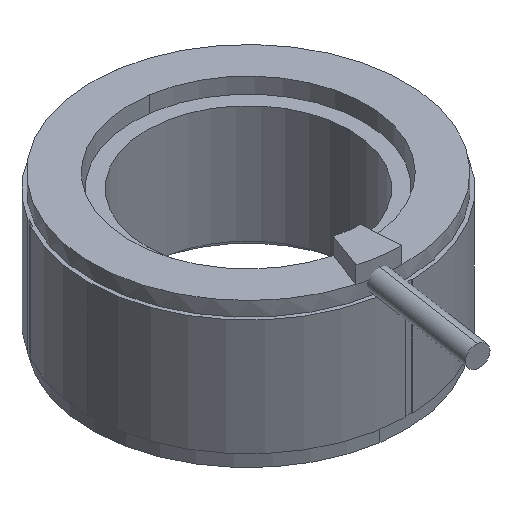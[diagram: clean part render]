
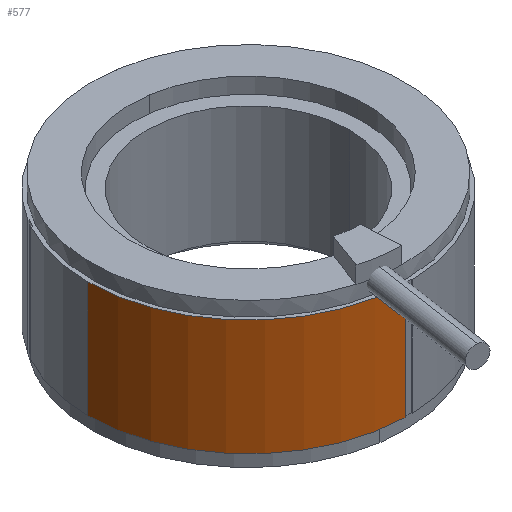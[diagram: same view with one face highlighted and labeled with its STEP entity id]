
A CAD part, isometric view. The second image highlights one B-rep face of the part: STEP entity #577.
In plain terms, the highlighted cylindrical face has radius 66.5 mm (diameter 133 mm), a partial arc.
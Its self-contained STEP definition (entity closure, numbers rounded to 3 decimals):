
#3 = DIRECTION ( 'NONE',  ( 0., 0., -1. ) ) ;
#15 = ORIENTED_EDGE ( 'NONE', *, *, #1209, .F. ) ;
#27 = DIRECTION ( 'NONE',  ( -1., 0., 0. ) ) ;
#33 = CARTESIAN_POINT ( 'NONE',  ( -36.603, 126.985, 129.713 ) ) ;
#38 = LINE ( 'NONE', #339, #453 ) ;
#151 = CARTESIAN_POINT ( 'NONE',  ( 28.372, 60.502, 177.713 ) ) ;
#156 = ORIENTED_EDGE ( 'NONE', *, *, #899, .T. ) ;
#183 = CARTESIAN_POINT ( 'NONE',  ( 29.897, 126.985, 177.713 ) ) ;
#218 = CIRCLE ( 'NONE', #894, 66.5 ) ;
#247 = CARTESIAN_POINT ( 'NONE',  ( -36.603, 126.985, 209.713 ) ) ;
#271 = VERTEX_POINT ( 'NONE', #151 ) ;
#313 = CARTESIAN_POINT ( 'NONE',  ( 29.897, 126.985, 209.713 ) ) ;
#320 = AXIS2_PLACEMENT_3D ( 'NONE', #680, #3, #850 ) ;
#339 = CARTESIAN_POINT ( 'NONE',  ( 28.372, 60.502, 374.11 ) ) ;
#440 = EDGE_CURVE ( 'NONE', #447, #506, #885, .T. ) ;
#447 = VERTEX_POINT ( 'NONE', #33 ) ;
#453 = VECTOR ( 'NONE', #1076, 1000. ) ;
#487 = CIRCLE ( 'NONE', #320, 66.5 ) ;
#506 = VERTEX_POINT ( 'NONE', #693 ) ;
#515 = CYLINDRICAL_SURFACE ( 'NONE', #892, 66.5 ) ;
#531 = CARTESIAN_POINT ( 'NONE',  ( 28.372, 60.502, 129.713 ) ) ;
#537 = ORIENTED_EDGE ( 'NONE', *, *, #440, .F. ) ;
#577 = ADVANCED_FACE ( 'NONE', ( #596 ), #515, .T. ) ;
#596 = FACE_OUTER_BOUND ( 'NONE', #1093, .T. ) ;
#611 = DIRECTION ( 'NONE',  ( 1., 0., 0. ) ) ;
#680 = CARTESIAN_POINT ( 'NONE',  ( 29.897, 126.985, 129.713 ) ) ;
#693 = CARTESIAN_POINT ( 'NONE',  ( -36.603, 126.985, 177.713 ) ) ;
#744 = DIRECTION ( 'NONE',  ( 0., 0., -1. ) ) ;
#777 = DIRECTION ( 'NONE',  ( 0., 0., 1. ) ) ;
#779 = ORIENTED_EDGE ( 'NONE', *, *, #1044, .F. ) ;
#850 = DIRECTION ( 'NONE',  ( 1., 0., 0. ) ) ;
#885 = LINE ( 'NONE', #247, #1125 ) ;
#892 = AXIS2_PLACEMENT_3D ( 'NONE', #313, #777, #27 ) ;
#894 = AXIS2_PLACEMENT_3D ( 'NONE', #183, #744, #611 ) ;
#899 = EDGE_CURVE ( 'NONE', #271, #506, #218, .T. ) ;
#1044 = EDGE_CURVE ( 'NONE', #1194, #447, #487, .T. ) ;
#1076 = DIRECTION ( 'NONE',  ( 0., 0., -1. ) ) ;
#1093 = EDGE_LOOP ( 'NONE', ( #537, #779, #15, #156 ) ) ;
#1125 = VECTOR ( 'NONE', #1142, 1000. ) ;
#1142 = DIRECTION ( 'NONE',  ( 0., 0., 1. ) ) ;
#1194 = VERTEX_POINT ( 'NONE', #531 ) ;
#1209 = EDGE_CURVE ( 'NONE', #271, #1194, #38, .T. ) ;
